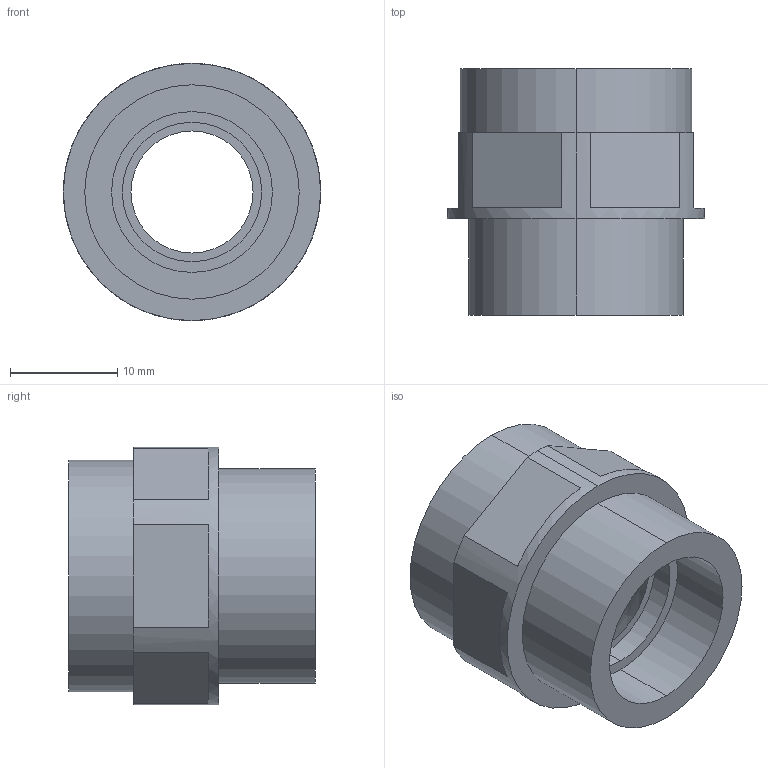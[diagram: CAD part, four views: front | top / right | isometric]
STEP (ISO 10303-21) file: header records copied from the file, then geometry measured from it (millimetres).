
FILE_DESCRIPTION (( 'STEP AP203' ), '1' );
FILE_NAME ('ZF_STEP_VF_ADPG13-PG11_A19.STEP', '2019-06-19T08:58:14', ( 'utente' ), ( 'Microsoft' ), 'SwSTEP 2.0', 'SolidWorks 2014', '' );
FILE_SCHEMA (( 'CONFIG_CONTROL_DESIGN' ));
Length unit declared in the file: millimetre
Products named in the file (1): ZF_STEP_VF_ADPG13-PG11_A19
Bounding box: 24 x 23 x 24 mm (x, y, z)
Volume: 3866.4 mm3; surface area: 3331.4 mm2
Topology: 1 solids, 1 shells, 33 faces, 78 edges, 52 vertices
Faces by surface type: plane 19, cylinder 12, cone 2
Entity records: 1053 total; most frequent: DIRECTION 186, CARTESIAN_POINT 164, ORIENTED_EDGE 156, EDGE_CURVE 78, AXIS2_PLACEMENT_3D 74, VERTEX_POINT 52, CIRCLE 40, EDGE_LOOP 40
